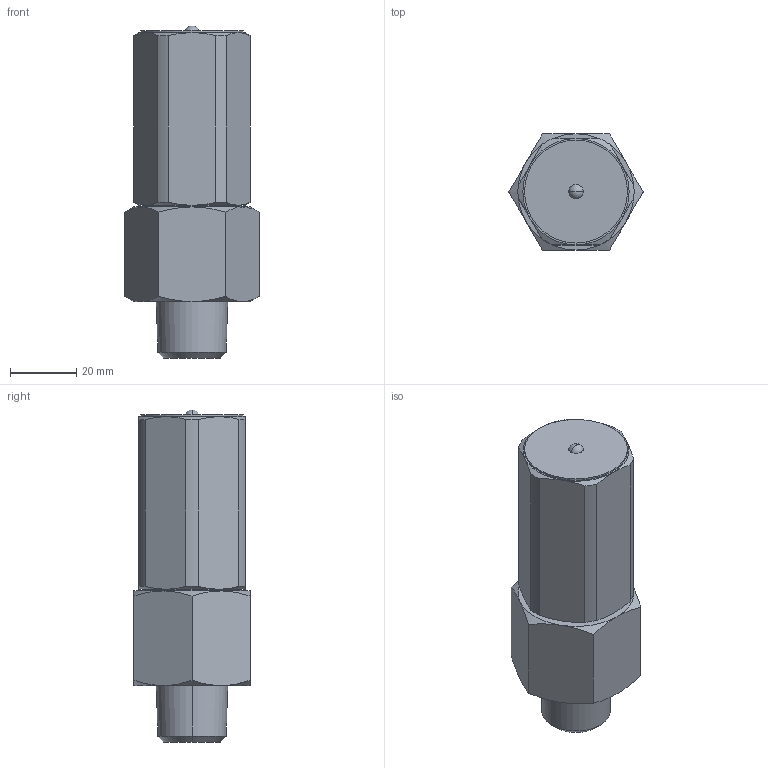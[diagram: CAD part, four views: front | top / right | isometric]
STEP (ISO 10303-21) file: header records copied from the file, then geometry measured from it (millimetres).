
FILE_DESCRIPTION( (''), '2;1');
FILE_NAME ('PC1276.2240.VB-7 15A_11210.stp','2025-12-15T15:26:31',(''),(''),'spGate 20.6.3 (****-****-****-****)','','');
FILE_SCHEMA (('AUTOMOTIVE_DESIGN'));
Length unit declared in the file: millimetre
Bounding box: 40.41 x 35 x 100 mm (x, y, z)
Volume: 82206.3 mm3; surface area: 12459.7 mm2
Topology: 1 solids, 1 shells, 58 faces, 130 edges, 77 vertices
Faces by surface type: bspline 28, plane 18, cylinder 10, sphere 2
Entity records: 2891 total; most frequent: CARTESIAN_POINT 735, ORIENTED_EDGE 256, COLOUR_RGB 187, PRESENTATION_STYLE_ASSIGNMENT 187, STYLED_ITEM 187, DIRECTION 182, EDGE_CURVE 128, DRAUGHTING_PRE_DEFINED_CURVE_FONT 128
